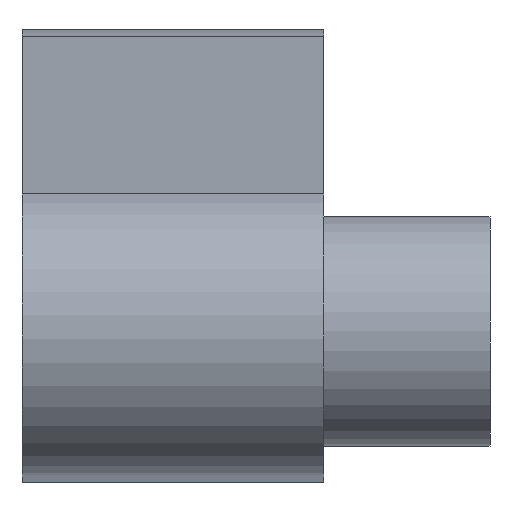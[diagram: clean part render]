
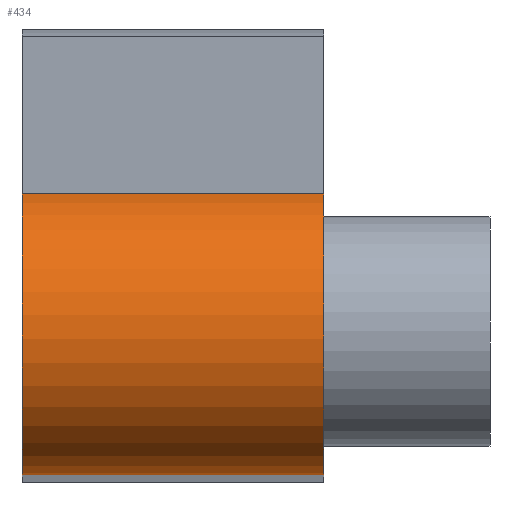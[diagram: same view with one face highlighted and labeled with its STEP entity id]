
A CAD part, left-side view. The second image highlights one B-rep face of the part: STEP entity #434.
In plain terms, the highlighted cylindrical face has radius 4.75 mm (diameter 9.5 mm), a partial arc.
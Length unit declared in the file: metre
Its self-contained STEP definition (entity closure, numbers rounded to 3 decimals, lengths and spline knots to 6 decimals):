
#12=LINE('',#664,#49);
#13=LINE('',#669,#50);
#49=VECTOR('',#532,1.);
#50=VECTOR('',#535,1.);
#86=CYLINDRICAL_SURFACE('',#477,0.00475);
#98=ORIENTED_EDGE('',*,*,#212,.F.);
#99=ORIENTED_EDGE('',*,*,#213,.T.);
#100=ORIENTED_EDGE('',*,*,#214,.T.);
#101=ORIENTED_EDGE('',*,*,#215,.F.);
#212=EDGE_CURVE('',#269,#270,#12,.T.);
#213=EDGE_CURVE('',#269,#271,#311,.T.);
#214=EDGE_CURVE('',#271,#272,#13,.T.);
#215=EDGE_CURVE('',#270,#272,#312,.T.);
#269=VERTEX_POINT('',#665);
#270=VERTEX_POINT('',#666);
#271=VERTEX_POINT('',#668);
#272=VERTEX_POINT('',#670);
#311=CIRCLE('',#478,0.00475);
#312=CIRCLE('',#479,0.00475);
#331=EDGE_LOOP('',(#98,#99,#100,#101));
#374=FACE_BOUND('',#331,.T.);
#434=ADVANCED_FACE('',(#374),#86,.T.);
#477=AXIS2_PLACEMENT_3D('',#663,#530,#531);
#478=AXIS2_PLACEMENT_3D('',#667,#533,#534);
#479=AXIS2_PLACEMENT_3D('',#671,#536,#537);
#530=DIRECTION('',(0.,-1.,0.));
#531=DIRECTION('',(0.,0.,-1.));
#532=DIRECTION('',(0.,1.,0.));
#533=DIRECTION('',(0.,1.,0.));
#534=DIRECTION('',(0.,0.,1.));
#535=DIRECTION('',(0.,1.,0.));
#536=DIRECTION('',(0.,1.,0.));
#537=DIRECTION('',(0.,0.,1.));
#663=CARTESIAN_POINT('',(0.04025,-0.0195,0.009));
#664=CARTESIAN_POINT('',(0.04018,-0.0295,0.004251));
#665=CARTESIAN_POINT('',(0.04018,-0.0295,0.004251));
#666=CARTESIAN_POINT('',(0.04018,-0.0195,0.004251));
#667=CARTESIAN_POINT('',(0.04025,-0.0295,0.009));
#668=CARTESIAN_POINT('',(0.038899,-0.0295,0.013554));
#669=CARTESIAN_POINT('',(0.038899,-0.0295,0.013554));
#670=CARTESIAN_POINT('',(0.038899,-0.0195,0.013554));
#671=CARTESIAN_POINT('',(0.04025,-0.0195,0.009));
